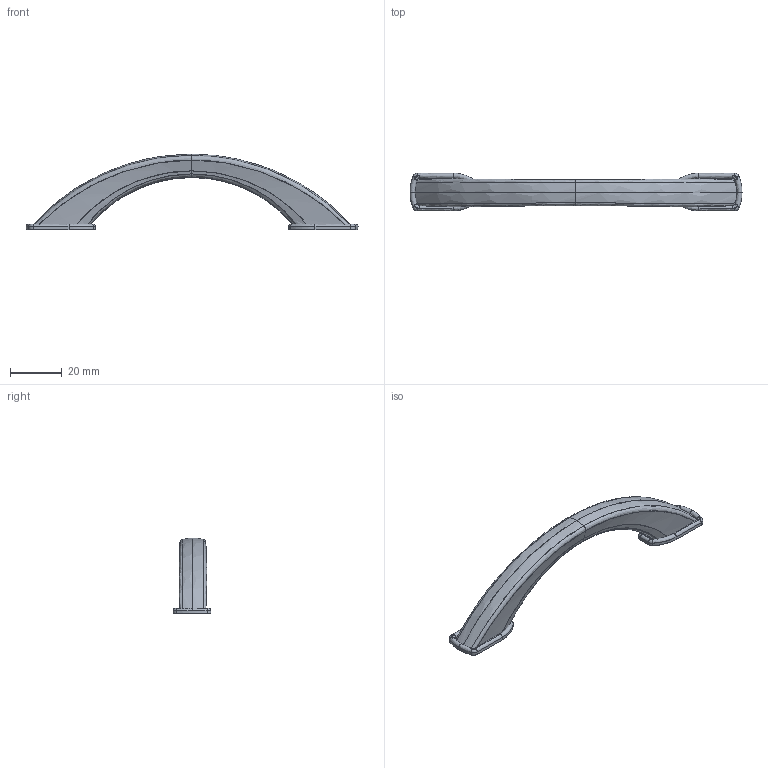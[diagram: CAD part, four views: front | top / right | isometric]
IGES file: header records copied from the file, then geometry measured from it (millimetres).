
Start section: C
Global section: file name: 0570-128.igs; native system: By Siemens PLM Incorporated; preprocessor: XPlus GENERIC/IGES 16.0.42; author: Author; organization: Title; date: 20260104.145805; units: millimetre
Bounding box: 128.09 x 14.55 x 29.24 mm (x, y, z)
Surface area: 6716.6 mm2 (no closed solid volume)
Topology: 0 solids, 0 shells, 100 faces, 486 edges, 486 vertices
Faces by surface type: bspline 100
